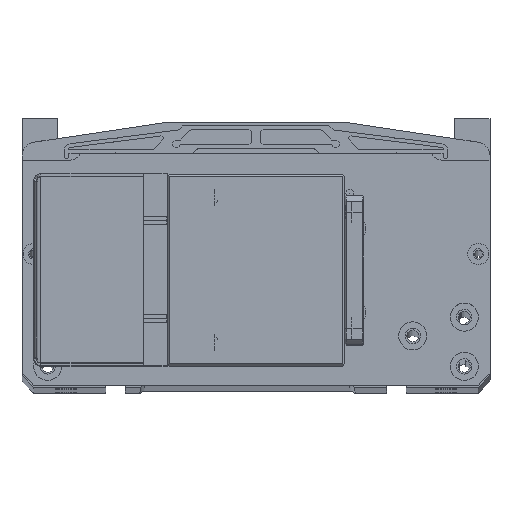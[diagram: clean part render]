
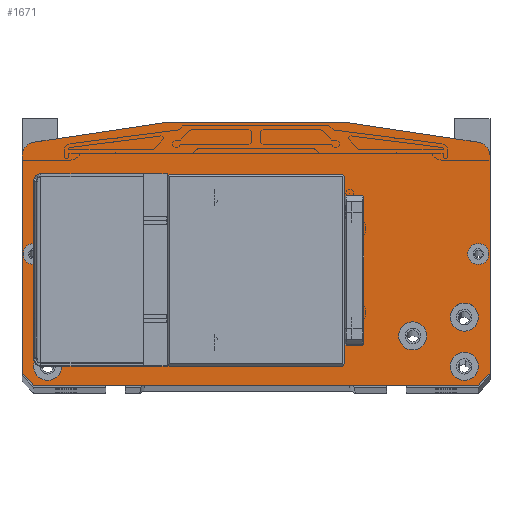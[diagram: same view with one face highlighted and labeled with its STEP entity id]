
A CAD part, top view. The second image highlights one B-rep face of the part: STEP entity #1671.
In plain terms, the highlighted planar face has unit normal (0, 0, 1).
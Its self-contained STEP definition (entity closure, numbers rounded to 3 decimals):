
#1671=ADVANCED_FACE('',(#6120,#6121,#6122,#6123,#6124,#6125,#6126,#6127,
#6128,#6129,#6130,#6131,#6132),#2711,.F.);
#2711=PLANE('',#18935);
#3184=LINE('',#26246,#4652);
#3185=LINE('',#26249,#4653);
#3186=LINE('',#26251,#4654);
#3187=LINE('',#26253,#4655);
#3188=LINE('',#26257,#4656);
#3189=LINE('',#26259,#4657);
#3190=LINE('',#26261,#4658);
#3191=LINE('',#26265,#4659);
#3192=LINE('',#26266,#4660);
#3193=LINE('',#26269,#4661);
#3194=LINE('',#26271,#4662);
#3195=LINE('',#26273,#4663);
#3196=LINE('',#26274,#4664);
#3197=LINE('',#26277,#4665);
#3198=LINE('',#26279,#4666);
#3199=LINE('',#26281,#4667);
#4652=VECTOR('',#20889,1.);
#4653=VECTOR('',#20890,1.);
#4654=VECTOR('',#20891,1.);
#4655=VECTOR('',#20892,1.);
#4656=VECTOR('',#20895,1.);
#4657=VECTOR('',#20896,1.);
#4658=VECTOR('',#20897,1.);
#4659=VECTOR('',#20900,1.);
#4660=VECTOR('',#20901,1.);
#4661=VECTOR('',#20902,1.);
#4662=VECTOR('',#20903,1.);
#4663=VECTOR('',#20904,1.);
#4664=VECTOR('',#20905,1.);
#4665=VECTOR('',#20906,1.);
#4666=VECTOR('',#20907,1.);
#4667=VECTOR('',#20908,1.);
#6120=FACE_BOUND('',#6850,.T.);
#6121=FACE_BOUND('',#6851,.T.);
#6122=FACE_BOUND('',#6852,.T.);
#6123=FACE_BOUND('',#6853,.T.);
#6124=FACE_BOUND('',#6854,.T.);
#6125=FACE_BOUND('',#6855,.T.);
#6126=FACE_BOUND('',#6856,.T.);
#6127=FACE_BOUND('',#6857,.T.);
#6128=FACE_BOUND('',#6858,.T.);
#6129=FACE_BOUND('',#6859,.T.);
#6130=FACE_BOUND('',#6860,.T.);
#6131=FACE_BOUND('',#6861,.T.);
#6132=FACE_BOUND('',#6862,.T.);
#6850=EDGE_LOOP('',(#8294));
#6851=EDGE_LOOP('',(#8295));
#6852=EDGE_LOOP('',(#8296));
#6853=EDGE_LOOP('',(#8297));
#6854=EDGE_LOOP('',(#8298));
#6855=EDGE_LOOP('',(#8299));
#6856=EDGE_LOOP('',(#8300));
#6857=EDGE_LOOP('',(#8301));
#6858=EDGE_LOOP('',(#8302));
#6859=EDGE_LOOP('',(#8303));
#6860=EDGE_LOOP('',(#8304,#8305,#8306,#8307,#8308,#8309,#8310,#8311,#8312,
#8313));
#6861=EDGE_LOOP('',(#8314,#8315,#8316,#8317));
#6862=EDGE_LOOP('',(#8318,#8319,#8320,#8321));
#8294=ORIENTED_EDGE('',*,*,#15380,.T.);
#8295=ORIENTED_EDGE('',*,*,#15381,.T.);
#8296=ORIENTED_EDGE('',*,*,#15382,.T.);
#8297=ORIENTED_EDGE('',*,*,#15383,.T.);
#8298=ORIENTED_EDGE('',*,*,#15384,.T.);
#8299=ORIENTED_EDGE('',*,*,#15385,.T.);
#8300=ORIENTED_EDGE('',*,*,#15386,.T.);
#8301=ORIENTED_EDGE('',*,*,#15387,.T.);
#8302=ORIENTED_EDGE('',*,*,#15388,.T.);
#8303=ORIENTED_EDGE('',*,*,#15389,.T.);
#8304=ORIENTED_EDGE('',*,*,#15390,.F.);
#8305=ORIENTED_EDGE('',*,*,#15391,.T.);
#8306=ORIENTED_EDGE('',*,*,#15392,.F.);
#8307=ORIENTED_EDGE('',*,*,#15393,.T.);
#8308=ORIENTED_EDGE('',*,*,#15394,.F.);
#8309=ORIENTED_EDGE('',*,*,#15395,.F.);
#8310=ORIENTED_EDGE('',*,*,#15396,.T.);
#8311=ORIENTED_EDGE('',*,*,#15397,.F.);
#8312=ORIENTED_EDGE('',*,*,#15398,.F.);
#8313=ORIENTED_EDGE('',*,*,#15399,.T.);
#8314=ORIENTED_EDGE('',*,*,#15400,.T.);
#8315=ORIENTED_EDGE('',*,*,#15401,.T.);
#8316=ORIENTED_EDGE('',*,*,#15402,.T.);
#8317=ORIENTED_EDGE('',*,*,#15403,.T.);
#8318=ORIENTED_EDGE('',*,*,#15404,.F.);
#8319=ORIENTED_EDGE('',*,*,#15405,.F.);
#8320=ORIENTED_EDGE('',*,*,#15406,.T.);
#8321=ORIENTED_EDGE('',*,*,#15407,.T.);
#13566=VERTEX_POINT('',#26227);
#13567=VERTEX_POINT('',#26229);
#13568=VERTEX_POINT('',#26231);
#13569=VERTEX_POINT('',#26233);
#13570=VERTEX_POINT('',#26235);
#13571=VERTEX_POINT('',#26237);
#13572=VERTEX_POINT('',#26239);
#13573=VERTEX_POINT('',#26241);
#13574=VERTEX_POINT('',#26243);
#13575=VERTEX_POINT('',#26245);
#13576=VERTEX_POINT('',#26247);
#13577=VERTEX_POINT('',#26248);
#13578=VERTEX_POINT('',#26250);
#13579=VERTEX_POINT('',#26252);
#13580=VERTEX_POINT('',#26254);
#13581=VERTEX_POINT('',#26256);
#13582=VERTEX_POINT('',#26258);
#13583=VERTEX_POINT('',#26260);
#13584=VERTEX_POINT('',#26262);
#13585=VERTEX_POINT('',#26264);
#13586=VERTEX_POINT('',#26267);
#13587=VERTEX_POINT('',#26268);
#13588=VERTEX_POINT('',#26270);
#13589=VERTEX_POINT('',#26272);
#13590=VERTEX_POINT('',#26275);
#13591=VERTEX_POINT('',#26276);
#13592=VERTEX_POINT('',#26278);
#13593=VERTEX_POINT('',#26280);
#15380=EDGE_CURVE('',#13566,#13566,#18016,.T.);
#15381=EDGE_CURVE('',#13567,#13567,#18017,.T.);
#15382=EDGE_CURVE('',#13568,#13568,#18018,.T.);
#15383=EDGE_CURVE('',#13569,#13569,#18019,.T.);
#15384=EDGE_CURVE('',#13570,#13570,#18020,.T.);
#15385=EDGE_CURVE('',#13571,#13571,#18021,.T.);
#15386=EDGE_CURVE('',#13572,#13572,#18022,.T.);
#15387=EDGE_CURVE('',#13573,#13573,#18023,.T.);
#15388=EDGE_CURVE('',#13574,#13574,#18024,.T.);
#15389=EDGE_CURVE('',#13575,#13575,#18025,.T.);
#15390=EDGE_CURVE('',#13576,#13577,#3184,.T.);
#15391=EDGE_CURVE('',#13576,#13578,#3185,.T.);
#15392=EDGE_CURVE('',#13579,#13578,#3186,.T.);
#15393=EDGE_CURVE('',#13579,#13580,#3187,.T.);
#15394=EDGE_CURVE('',#13581,#13580,#18026,.T.);
#15395=EDGE_CURVE('',#13582,#13581,#3188,.T.);
#15396=EDGE_CURVE('',#13582,#13583,#3189,.T.);
#15397=EDGE_CURVE('',#13584,#13583,#3190,.T.);
#15398=EDGE_CURVE('',#13585,#13584,#18027,.T.);
#15399=EDGE_CURVE('',#13585,#13577,#3191,.T.);
#15400=EDGE_CURVE('',#13586,#13587,#3192,.T.);
#15401=EDGE_CURVE('',#13587,#13588,#3193,.T.);
#15402=EDGE_CURVE('',#13588,#13589,#3194,.T.);
#15403=EDGE_CURVE('',#13589,#13586,#3195,.T.);
#15404=EDGE_CURVE('',#13590,#13591,#3196,.T.);
#15405=EDGE_CURVE('',#13592,#13590,#3197,.T.);
#15406=EDGE_CURVE('',#13592,#13593,#3198,.T.);
#15407=EDGE_CURVE('',#13593,#13591,#3199,.T.);
#18016=CIRCLE('',#18923,1.65);
#18017=CIRCLE('',#18924,1.65);
#18018=CIRCLE('',#18925,4.5);
#18019=CIRCLE('',#18926,4.5);
#18020=CIRCLE('',#18927,6.);
#18021=CIRCLE('',#18928,6.);
#18022=CIRCLE('',#18929,6.);
#18023=CIRCLE('',#18930,6.);
#18024=CIRCLE('',#18931,6.);
#18025=CIRCLE('',#18932,6.);
#18026=CIRCLE('',#18933,6.);
#18027=CIRCLE('',#18934,6.);
#18923=AXIS2_PLACEMENT_3D('',#26226,#20869,#20870);
#18924=AXIS2_PLACEMENT_3D('',#26228,#20871,#20872);
#18925=AXIS2_PLACEMENT_3D('',#26230,#20873,#20874);
#18926=AXIS2_PLACEMENT_3D('',#26232,#20875,#20876);
#18927=AXIS2_PLACEMENT_3D('',#26234,#20877,#20878);
#18928=AXIS2_PLACEMENT_3D('',#26236,#20879,#20880);
#18929=AXIS2_PLACEMENT_3D('',#26238,#20881,#20882);
#18930=AXIS2_PLACEMENT_3D('',#26240,#20883,#20884);
#18931=AXIS2_PLACEMENT_3D('',#26242,#20885,#20886);
#18932=AXIS2_PLACEMENT_3D('',#26244,#20887,#20888);
#18933=AXIS2_PLACEMENT_3D('',#26255,#20893,#20894);
#18934=AXIS2_PLACEMENT_3D('',#26263,#20898,#20899);
#18935=AXIS2_PLACEMENT_3D('',#26282,#20909,#20910);
#20869=DIRECTION('',(0.,0.,-1.));
#20870=DIRECTION('',(1.,0.,0.));
#20871=DIRECTION('',(0.,0.,-1.));
#20872=DIRECTION('',(1.,0.,0.));
#20873=DIRECTION('',(0.,0.,-1.));
#20874=DIRECTION('',(1.,0.,0.));
#20875=DIRECTION('',(0.,0.,-1.));
#20876=DIRECTION('',(1.,0.,0.));
#20877=DIRECTION('',(0.,0.,-1.));
#20878=DIRECTION('',(1.,0.,0.));
#20879=DIRECTION('',(0.,0.,-1.));
#20880=DIRECTION('',(1.,0.,0.));
#20881=DIRECTION('',(0.,0.,-1.));
#20882=DIRECTION('',(1.,0.,0.));
#20883=DIRECTION('',(0.,0.,-1.));
#20884=DIRECTION('',(1.,0.,0.));
#20885=DIRECTION('',(0.,0.,-1.));
#20886=DIRECTION('',(1.,0.,0.));
#20887=DIRECTION('',(0.,0.,-1.));
#20888=DIRECTION('',(1.,0.,0.));
#20889=DIRECTION('',(-0.707,0.707,0.));
#20890=DIRECTION('',(1.,0.,0.));
#20891=DIRECTION('',(-0.707,-0.707,0.));
#20892=DIRECTION('',(0.,1.,0.));
#20893=DIRECTION('',(0.,0.,-1.));
#20894=DIRECTION('',(0.148,0.989,0.));
#20895=DIRECTION('',(0.989,-0.148,0.));
#20896=DIRECTION('',(-1.,0.,0.));
#20897=DIRECTION('',(0.989,0.148,0.));
#20898=DIRECTION('',(0.,0.,-1.));
#20899=DIRECTION('',(-1.,0.,0.));
#20900=DIRECTION('',(0.,-1.,0.));
#20901=DIRECTION('',(0.,1.,0.));
#20902=DIRECTION('',(1.,0.,0.));
#20903=DIRECTION('',(0.,-1.,0.));
#20904=DIRECTION('',(-1.,0.,0.));
#20905=DIRECTION('',(0.,1.,0.));
#20906=DIRECTION('',(1.,0.,0.));
#20907=DIRECTION('',(0.,1.,0.));
#20908=DIRECTION('',(1.,0.,0.));
#20909=DIRECTION('',(0.,0.,-1.));
#20910=DIRECTION('',(-1.,0.,0.));
#26226=CARTESIAN_POINT('',(-42.,33.,463.));
#26227=CARTESIAN_POINT('',(-40.35,33.,463.));
#26228=CARTESIAN_POINT('',(-42.,69.,463.));
#26229=CARTESIAN_POINT('',(-40.35,69.,463.));
#26230=CARTESIAN_POINT('',(-95.,58.,463.));
#26231=CARTESIAN_POINT('',(-90.5,58.,463.));
#26232=CARTESIAN_POINT('',(95.,58.,463.));
#26233=CARTESIAN_POINT('',(99.5,58.,463.));
#26234=CARTESIAN_POINT('',(-67.,23.,463.));
#26235=CARTESIAN_POINT('',(-61.,23.,463.));
#26236=CARTESIAN_POINT('',(67.,23.,463.));
#26237=CARTESIAN_POINT('',(73.,23.,463.));
#26238=CARTESIAN_POINT('',(-89.,31.,463.));
#26239=CARTESIAN_POINT('',(-83.,31.,463.));
#26240=CARTESIAN_POINT('',(89.,31.,463.));
#26241=CARTESIAN_POINT('',(95.,31.,463.));
#26242=CARTESIAN_POINT('',(-89.,10.,463.));
#26243=CARTESIAN_POINT('',(-83.,10.,463.));
#26244=CARTESIAN_POINT('',(89.,10.,463.));
#26245=CARTESIAN_POINT('',(95.,10.,463.));
#26246=CARTESIAN_POINT('',(-95.,2.,463.));
#26247=CARTESIAN_POINT('',(-95.,2.,463.));
#26248=CARTESIAN_POINT('',(-100.,7.,463.));
#26249=CARTESIAN_POINT('',(67.5,2.,463.));
#26250=CARTESIAN_POINT('',(95.,2.,463.));
#26251=CARTESIAN_POINT('',(100.,7.,463.));
#26252=CARTESIAN_POINT('',(100.,7.,463.));
#26253=CARTESIAN_POINT('',(100.,7.,463.));
#26254=CARTESIAN_POINT('',(100.,99.833,463.));
#26255=CARTESIAN_POINT('',(94.,99.833,463.));
#26256=CARTESIAN_POINT('',(94.89,105.766,463.));
#26257=CARTESIAN_POINT('',(40.,114.,463.));
#26258=CARTESIAN_POINT('',(40.,114.,463.));
#26259=CARTESIAN_POINT('',(40.,114.,463.));
#26260=CARTESIAN_POINT('',(-40.,114.,463.));
#26261=CARTESIAN_POINT('',(-94.89,105.766,463.));
#26262=CARTESIAN_POINT('',(-94.89,105.766,463.));
#26263=CARTESIAN_POINT('',(-94.,99.833,463.));
#26264=CARTESIAN_POINT('',(-100.,99.833,463.));
#26265=CARTESIAN_POINT('',(-100.,99.833,463.));
#26266=CARTESIAN_POINT('',(-37.,91.,463.));
#26267=CARTESIAN_POINT('',(-37.,11.,463.));
#26268=CARTESIAN_POINT('',(-37.,91.,463.));
#26269=CARTESIAN_POINT('',(37.,91.,463.));
#26270=CARTESIAN_POINT('',(37.,91.,463.));
#26271=CARTESIAN_POINT('',(37.,11.,463.));
#26272=CARTESIAN_POINT('',(37.,11.,463.));
#26273=CARTESIAN_POINT('',(-37.,11.,463.));
#26274=CARTESIAN_POINT('',(45.5,80.466,463.));
#26275=CARTESIAN_POINT('',(45.5,21.534,463.));
#26276=CARTESIAN_POINT('',(45.5,80.466,463.));
#26277=CARTESIAN_POINT('',(45.5,21.534,463.));
#26278=CARTESIAN_POINT('',(38.5,21.534,463.));
#26279=CARTESIAN_POINT('',(38.5,80.466,463.));
#26280=CARTESIAN_POINT('',(38.5,80.466,463.));
#26281=CARTESIAN_POINT('',(45.5,80.466,463.));
#26282=CARTESIAN_POINT('',(0.,2.,463.));
